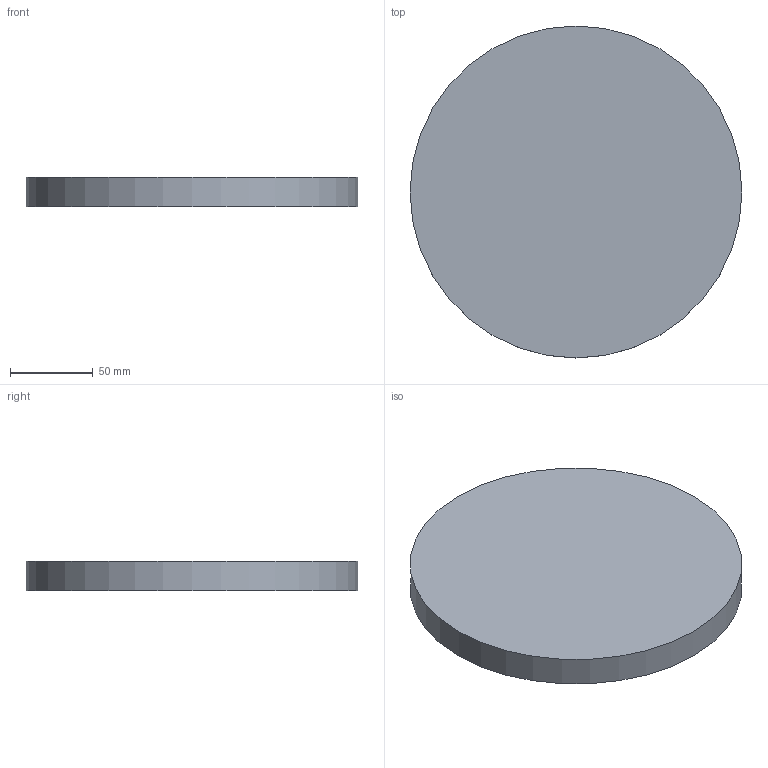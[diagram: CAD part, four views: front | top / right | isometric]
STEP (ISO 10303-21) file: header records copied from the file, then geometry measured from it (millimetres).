
FILE_DESCRIPTION(('Open CASCADE Model'),'2;1');
FILE_NAME('Open CASCADE Shape Model','2026-09-28T11:39:47',('Author'),( 'Open CASCADE'),'Open CASCADE STEP processor 7.9','Open CASCADE 7.9' ,'Unknown');
FILE_SCHEMA(('AUTOMOTIVE_DESIGN { 1 0 10303 214 1 1 1 1 }'));
Length unit declared in the file: millimetre
Products named in the file (2): disc-200; disc
Assembly tree (1 placements, depth 2):
  disc-200
    disc
Bounding box: 200 x 200 x 18 mm (x, y, z)
Volume: 565486.7 mm3; surface area: 74141.6 mm2
Topology: 1 solids, 1 shells, 3 faces, 3 edges, 2 vertices
Faces by surface type: plane 2, cylinder 1
Full cylindrical faces by diameter (mm): 200 x1
Entity records: 135 total; most frequent: DIRECTION 21, CARTESIAN_POINT 16, AXIS2_PLACEMENT_3D 7, ORIENTED_EDGE 6, PCURVE 6, DEFINITIONAL_REPRESENTATION 6, LINE 5, VECTOR 5
